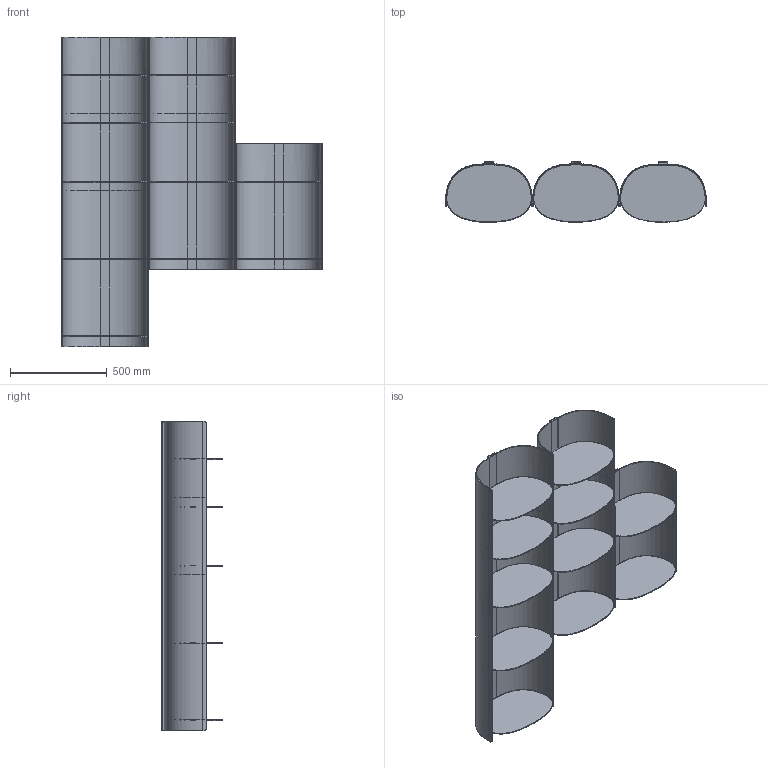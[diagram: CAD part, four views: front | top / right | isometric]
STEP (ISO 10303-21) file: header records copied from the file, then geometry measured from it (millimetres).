
FILE_DESCRIPTION(/* description */ (''),/* implementation_level */ '2;1');
FILE_NAME(/* name */ '202207_Pulpo_Comoshelf_complete',/* time_stamp */ '2022-07-05T09:56:23+02:00',/* author */ (''),/* organization */ (''),/* preprocessor_version */ 'ST-DEVELOPER v16.5',/* originating_system */ 'Rhino 7.19',/* authorisation */ '');
FILE_SCHEMA (('CONFIG_CONTROL_DESIGN'));
Length unit declared in the file: millimetre
Products named in the file (1): Document
Bounding box: 1349.5 x 311.97 x 1600 mm (x, y, z)
Volume: 15821181.1 mm3; surface area: 7934404.4 mm2
Topology: 20 solids, 20 shells, 464 faces, 1010 edges, 586 vertices
Faces by surface type: bspline 164, plane 157, cylinder 143
Entity records: 36647 total; most frequent: CARTESIAN_POINT 30174, ORIENTED_EDGE 2020, EDGE_CURVE 1010, VERTEX_POINT 586, EDGE_LOOP 480, ADVANCED_FACE 464, FACE_OUTER_BOUND 464, B_SPLINE_CURVE_WITH_KNOTS 371
